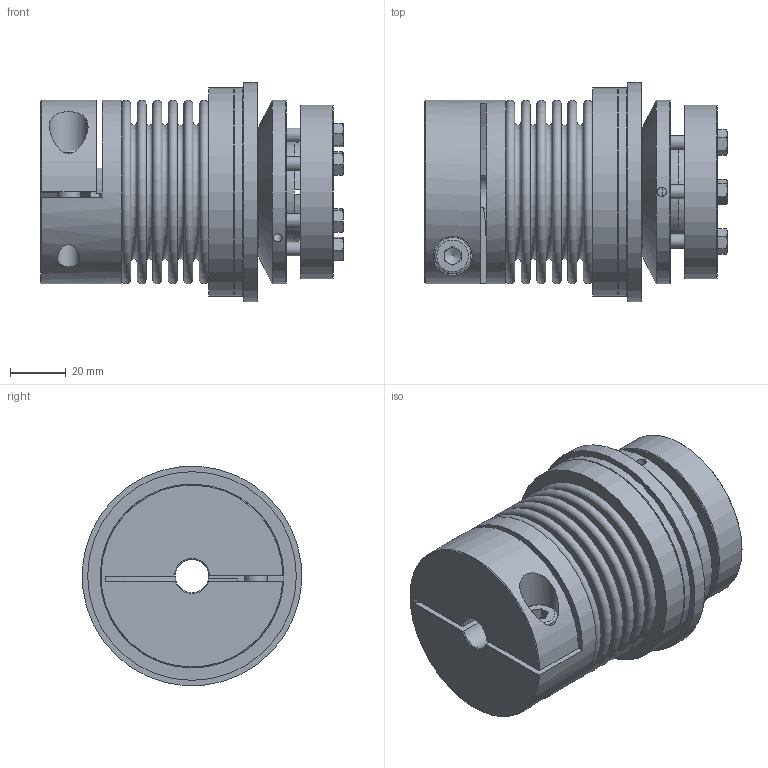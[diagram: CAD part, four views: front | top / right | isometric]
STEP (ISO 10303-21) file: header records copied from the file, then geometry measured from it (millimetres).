
FILE_DESCRIPTION( ( 'Unknown' ), '1' );
FILE_NAME( 'C:/Users/skarpstein/Desktop/Korrigierte 3D Modelle/KBK-B-KA/KBK-BKA-60-108.stp', 'Unknown', ( 'Unknown' ), ( 'Unknown' ), 'PSStep 16.0.42', 'Unknown', ' ' );
FILE_SCHEMA( ( 'AUTOMOTIVE_DESIGN { 1 0 10303 214 1 1 1 1 }' ) );
Length unit declared in the file: millimetre
Products named in the file (10): Assem1; Stellring 60; Druckring 60; Flansch BK60; KN60_Standard_2; Socket Head Cap Screw_DIN_DIN 912 M8 x 25 --- 25N_2; KBK L-A-60 Grundkörper_0; Druckring L-A-60_0; BL60_Standard_0; din_en_24017_m5x20_0
Assembly tree (14 placements, depth 2):
  Assem1
    Stellring 60
    Druckring 60
    Flansch BK60
    KN60_Standard_2
    Socket Head Cap Screw_DIN_DIN 912 M8 x 25 --- 25N_2
    KBK L-A-60 Grundkörper_0
    Druckring L-A-60_0
    BL60_Standard_0
    din_en_24017_m5x20_0  x6
Bounding box: 108.7 x 78.8 x 78.8 mm (x, y, z)
Volume: 248370.8 mm3; surface area: 123527.1 mm2
Topology: 14 solids, 14 shells, 322 faces, 661 edges, 423 vertices
Faces by surface type: plane 156, cone 72, cylinder 60, torus 34
Full cylindrical faces by diameter (mm): 3.242 x3, 4 x3, 4.134 x6, 5 x6, 5.5 x6, 6.88 x6, 8 x2, 8.5 x1, 12 x1, 13 x1, 14 x1, 15 x1, 33 x1, 35 x2, 35.937 x1, 42 x1, 46 x2, 46.5 x1, 47 x1, 56.3 x2, 57.3 x2, 61.3 x1, 62.5 x1, 66 x2, 75 x2, 79 x1
Entity records: 7507 total; most frequent: CARTESIAN_POINT 1395, DIRECTION 949, ORIENTED_EDGE 642, AXIS2_PLACEMENT_3D 434, EDGE_LOOP 380, EDGE_CURVE 321, FACE_OUTER_BOUND 288, VERTEX_POINT 272
